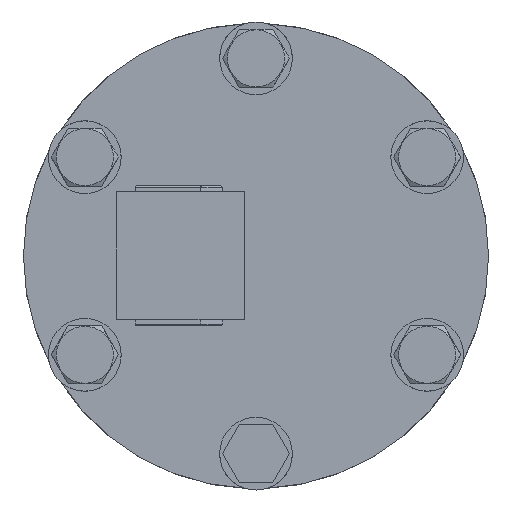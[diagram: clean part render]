
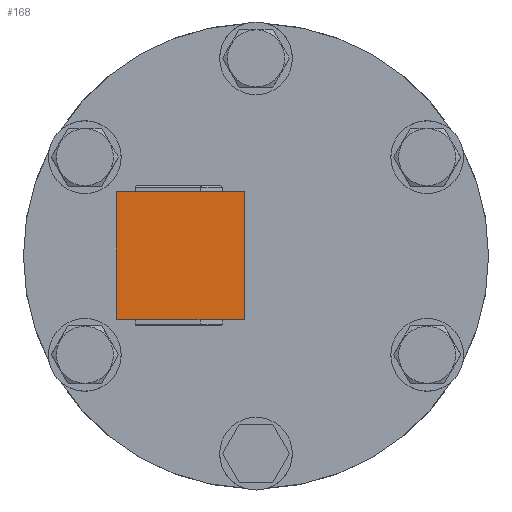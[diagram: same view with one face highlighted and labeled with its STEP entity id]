
A CAD part, top view. The second image highlights one B-rep face of the part: STEP entity #168.
In plain terms, the highlighted planar face has unit normal (0, 0, 1).
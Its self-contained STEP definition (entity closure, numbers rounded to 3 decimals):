
#168=ADVANCED_FACE('',(#1594),#1593,.T.);
#1593=PLANE('',#3974);
#1594=FACE_OUTER_BOUND('',#3975,.T.);
#3971=CARTESIAN_POINT('',(-26.209,-13.2,146.));
#3972=DIRECTION('',(0.,0.,1.));
#3973=DIRECTION('',(1.,0.,0.));
#3974=AXIS2_PLACEMENT_3D('',#3971,#3972,#3973);
#3975=EDGE_LOOP('',(#5512,#5513,#5514,#5515));
#5512=ORIENTED_EDGE('',*,*,#6572,.T.);
#5513=ORIENTED_EDGE('',*,*,#6573,.T.);
#5514=ORIENTED_EDGE('',*,*,#6574,.T.);
#5515=ORIENTED_EDGE('',*,*,#6575,.T.);
#6572=EDGE_CURVE('',#9565,#9566,#9567,.T.);
#6573=EDGE_CURVE('',#9566,#9573,#9574,.T.);
#6574=EDGE_CURVE('',#9573,#9580,#9581,.T.);
#6575=EDGE_CURVE('',#9580,#9565,#9587,.T.);
#9565=VERTEX_POINT('',#13037);
#9566=VERTEX_POINT('',#13038);
#9567=LINE('',#13039,#13040);
#9573=VERTEX_POINT('',#13042);
#9574=LINE('',#13043,#13044);
#9580=VERTEX_POINT('',#13046);
#9581=LINE('',#13047,#13048);
#9587=LINE('',#13050,#13051);
#13037=CARTESIAN_POINT('',(-24.009,11.,146.));
#13038=CARTESIAN_POINT('',(-24.009,-11.,146.));
#13039=CARTESIAN_POINT('',(-24.009,11.,146.));
#13040=VECTOR('',#13041,22.);
#13041=DIRECTION('',(0.,-1.,0.));
#13042=CARTESIAN_POINT('',(-2.009,-11.,146.));
#13043=CARTESIAN_POINT('',(-24.009,-11.,146.));
#13044=VECTOR('',#13045,22.);
#13045=DIRECTION('',(1.,0.,0.));
#13046=CARTESIAN_POINT('',(-2.009,11.,146.));
#13047=CARTESIAN_POINT('',(-2.009,-11.,146.));
#13048=VECTOR('',#13049,22.);
#13049=DIRECTION('',(0.,1.,0.));
#13050=CARTESIAN_POINT('',(-2.009,11.,146.));
#13051=VECTOR('',#13052,22.);
#13052=DIRECTION('',(-1.,0.,0.));
